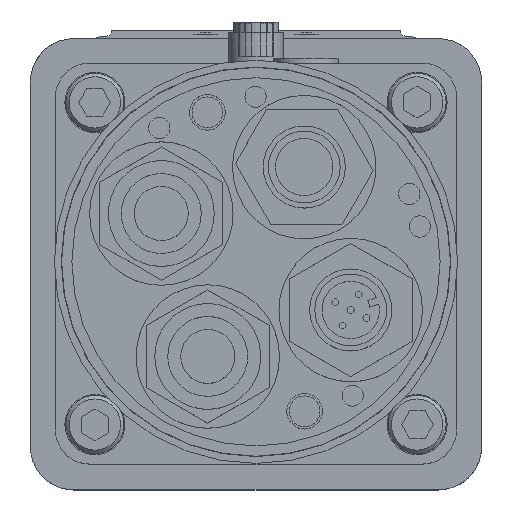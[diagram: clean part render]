
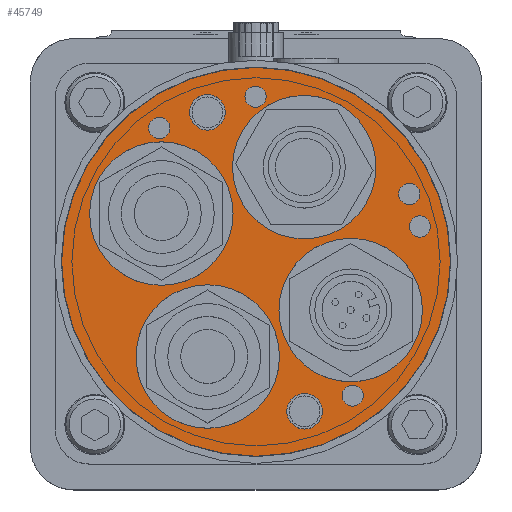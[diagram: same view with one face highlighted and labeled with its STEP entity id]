
A CAD part, top view. The second image highlights one B-rep face of the part: STEP entity #45749.
In plain terms, the highlighted planar face has unit normal (0, 0, 1) as drawn and (0, 0, -1) by its records, which use the part's own axes.
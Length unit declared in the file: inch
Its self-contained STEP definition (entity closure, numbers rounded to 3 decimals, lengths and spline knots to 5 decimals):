
#522 = PLANE ( 'NONE',  #7564 ) ;
#1649 = VERTEX_POINT ( 'NONE', #18389 ) ;
#2175 = CARTESIAN_POINT ( 'NONE',  ( 0.27802, -0.54565, -7.99261 ) ) ;
#2789 = CARTESIAN_POINT ( 'NONE',  ( -0.17746, -0.86119, -7.99261 ) ) ;
#3560 = AXIS2_PLACEMENT_3D ( 'NONE', #33934, #13906, #13620 ) ;
#3798 = EDGE_LOOP ( 'NONE', ( #43022 ) ) ;
#4311 = DIRECTION ( 'NONE',  ( 1., 0., 0. ) ) ;
#4491 = EDGE_CURVE ( 'NONE', #7160, #7160, #24255, .T. ) ;
#4759 = VERTEX_POINT ( 'NONE', #37407 ) ;
#5325 = DIRECTION ( 'NONE',  ( -1., 0., 0. ) ) ;
#5573 = DIRECTION ( 'NONE',  ( 0., 0., -1. ) ) ;
#5956 = AXIS2_PLACEMENT_3D ( 'NONE', #2175, #35667, #40591 ) ;
#6618 = ORIENTED_EDGE ( 'NONE', *, *, #51304, .F. ) ;
#6995 = CARTESIAN_POINT ( 'NONE',  ( -0.27982, -0.86119, -7.99261 ) ) ;
#7126 = FACE_BOUND ( 'NONE', #15696, .T. ) ;
#7160 = VERTEX_POINT ( 'NONE', #2789 ) ;
#7243 = AXIS2_PLACEMENT_3D ( 'NONE', #53114, #28141, #15519 ) ;
#7564 = AXIS2_PLACEMENT_3D ( 'NONE', #29908, #21391, #50222 ) ;
#8212 = DIRECTION ( 'NONE',  ( 0., 0., -1. ) ) ;
#8250 = DIRECTION ( 'NONE',  ( 0., 0., -1. ) ) ;
#8532 = DIRECTION ( 'NONE',  ( -1., 0., 0. ) ) ;
#9557 = CARTESIAN_POINT ( 'NONE',  ( 0.69141, -0.54565, -7.99261 ) ) ;
#9688 = CARTESIAN_POINT ( 'NONE',  ( 0.13536, 0.54565, -7.99261 ) ) ;
#10394 = ORIENTED_EDGE ( 'NONE', *, *, #32654, .F. ) ;
#10955 = FACE_BOUND ( 'NONE', #48382, .T. ) ;
#11206 = EDGE_LOOP ( 'NONE', ( #25005 ) ) ;
#11508 = FACE_BOUND ( 'NONE', #44926, .T. ) ;
#12595 = CIRCLE ( 'NONE', #19595, 0.06102 ) ;
#12827 = CIRCLE ( 'NONE', #31192, 0.06102 ) ;
#13620 = DIRECTION ( 'NONE',  ( 1., 0., 0. ) ) ;
#13788 = AXIS2_PLACEMENT_3D ( 'NONE', #6995, #31447, #31972 ) ;
#13906 = DIRECTION ( 'NONE',  ( 0., 0., -1. ) ) ;
#15519 = DIRECTION ( 'NONE',  ( 1., 0., 0. ) ) ;
#15631 = FACE_BOUND ( 'NONE', #42193, .T. ) ;
#15696 = EDGE_LOOP ( 'NONE', ( #53434 ) ) ;
#15862 = CIRCLE ( 'NONE', #3560, 0.41339 ) ;
#15905 = FACE_BOUND ( 'NONE', #40054, .T. ) ;
#16017 = CARTESIAN_POINT ( 'NONE',  ( 0.38218, 0.86119, -7.99261 ) ) ;
#16335 = VERTEX_POINT ( 'NONE', #33080 ) ;
#16415 = CARTESIAN_POINT ( 'NONE',  ( -0.61791, -0.77112, -7.99261 ) ) ;
#16583 = EDGE_CURVE ( 'NONE', #49557, #49557, #38331, .T. ) ;
#17115 = ORIENTED_EDGE ( 'NONE', *, *, #20558, .F. ) ;
#18035 = ORIENTED_EDGE ( 'NONE', *, *, #47054, .F. ) ;
#18102 = ORIENTED_EDGE ( 'NONE', *, *, #28217, .F. ) ;
#18389 = CARTESIAN_POINT ( 'NONE',  ( 0.49586, 0.77112, -7.99261 ) ) ;
#18859 = DIRECTION ( 'NONE',  ( 1., 0., 0. ) ) ;
#19093 = CIRCLE ( 'NONE', #5956, 0.41339 ) ;
#19595 = AXIS2_PLACEMENT_3D ( 'NONE', #51683, #5573, #43160 ) ;
#19733 = FACE_BOUND ( 'NONE', #46553, .T. ) ;
#20558 = EDGE_CURVE ( 'NONE', #46819, #46819, #49845, .T. ) ;
#20862 = AXIS2_PLACEMENT_3D ( 'NONE', #45867, #8250, #8532 ) ;
#21197 = EDGE_CURVE ( 'NONE', #16335, #16335, #23588, .T. ) ;
#21391 = DIRECTION ( 'NONE',  ( 0., 0., 1. ) ) ;
#21665 = FACE_OUTER_BOUND ( 'NONE', #3798, .T. ) ;
#22790 = ORIENTED_EDGE ( 'NONE', *, *, #47359, .F. ) ;
#23588 = CIRCLE ( 'NONE', #30623, 0.41339 ) ;
#23721 = VERTEX_POINT ( 'NONE', #16017 ) ;
#23872 = FACE_BOUND ( 'NONE', #34082, .T. ) ;
#24255 = CIRCLE ( 'NONE', #13788, 0.10236 ) ;
#24815 = DIRECTION ( 'NONE',  ( -1., 0., 0. ) ) ;
#25005 = ORIENTED_EDGE ( 'NONE', *, *, #16583, .F. ) ;
#25903 = EDGE_CURVE ( 'NONE', #40979, #40979, #12595, .T. ) ;
#26556 = CARTESIAN_POINT ( 'NONE',  ( -0.9443, 0.20333, -7.99261 ) ) ;
#27094 = DIRECTION ( 'NONE',  ( 0., 0., -1. ) ) ;
#27813 = AXIS2_PLACEMENT_3D ( 'NONE', #47125, #38057, #4311 ) ;
#28141 = DIRECTION ( 'NONE',  ( 0., 0., 1. ) ) ;
#28217 = EDGE_CURVE ( 'NONE', #4759, #4759, #12827, .T. ) ;
#28255 = FACE_BOUND ( 'NONE', #48295, .T. ) ;
#28434 = CARTESIAN_POINT ( 'NONE',  ( 0.54565, 0.27802, -7.99261 ) ) ;
#28518 = DIRECTION ( 'NONE',  ( 1., 0., 0. ) ) ;
#28954 = DIRECTION ( 'NONE',  ( 0., 0., -1. ) ) ;
#29908 = CARTESIAN_POINT ( 'NONE',  ( 0., 0., -7.99261 ) ) ;
#30022 = CARTESIAN_POINT ( 'NONE',  ( 0.00272, 0.95118, -7.99261 ) ) ;
#30623 = AXIS2_PLACEMENT_3D ( 'NONE', #28434, #32021, #18859 ) ;
#31192 = AXIS2_PLACEMENT_3D ( 'NONE', #26556, #27094, #38902 ) ;
#31447 = DIRECTION ( 'NONE',  ( 0., 0., -1. ) ) ;
#31486 = EDGE_LOOP ( 'NONE', ( #17115 ) ) ;
#31972 = DIRECTION ( 'NONE',  ( 1., 0., 0. ) ) ;
#32021 = DIRECTION ( 'NONE',  ( 0., 0., -1. ) ) ;
#32654 = EDGE_CURVE ( 'NONE', #47298, #47298, #15862, .T. ) ;
#33080 = CARTESIAN_POINT ( 'NONE',  ( 0.95904, 0.27802, -7.99261 ) ) ;
#33316 = VERTEX_POINT ( 'NONE', #42373 ) ;
#33369 = CARTESIAN_POINT ( 'NONE',  ( -0.0583, 0.95118, -7.99261 ) ) ;
#33934 = CARTESIAN_POINT ( 'NONE',  ( -0.27802, 0.54565, -7.99261 ) ) ;
#34082 = EDGE_LOOP ( 'NONE', ( #38686 ) ) ;
#35667 = DIRECTION ( 'NONE',  ( 0., 0., -1. ) ) ;
#36376 = AXIS2_PLACEMENT_3D ( 'NONE', #54202, #28954, #24815 ) ;
#36486 = FACE_BOUND ( 'NONE', #31486, .T. ) ;
#37270 = VERTEX_POINT ( 'NONE', #16415 ) ;
#37407 = CARTESIAN_POINT ( 'NONE',  ( -1.00533, 0.20333, -7.99261 ) ) ;
#38057 = DIRECTION ( 'NONE',  ( 0., 0., -1. ) ) ;
#38331 = CIRCLE ( 'NONE', #27813, 0.41339 ) ;
#38686 = ORIENTED_EDGE ( 'NONE', *, *, #21197, .F. ) ;
#38756 = EDGE_CURVE ( 'NONE', #1649, #1649, #46027, .T. ) ;
#38790 = DIRECTION ( 'NONE',  ( 0., 0., -1. ) ) ;
#38902 = DIRECTION ( 'NONE',  ( -1., 0., 0. ) ) ;
#38913 = VERTEX_POINT ( 'NONE', #9557 ) ;
#40054 = EDGE_LOOP ( 'NONE', ( #6618 ) ) ;
#40591 = DIRECTION ( 'NONE',  ( 1., 0., 0. ) ) ;
#40979 = VERTEX_POINT ( 'NONE', #53067 ) ;
#41047 = CARTESIAN_POINT ( 'NONE',  ( -0.13227, -0.27802, -7.99261 ) ) ;
#41430 = FACE_BOUND ( 'NONE', #11206, .T. ) ;
#42193 = EDGE_LOOP ( 'NONE', ( #18035 ) ) ;
#42373 = CARTESIAN_POINT ( 'NONE',  ( 1.12008, 0., -7.99261 ) ) ;
#43022 = ORIENTED_EDGE ( 'NONE', *, *, #53357, .F. ) ;
#43160 = DIRECTION ( 'NONE',  ( -1., 0., 0. ) ) ;
#43369 = ORIENTED_EDGE ( 'NONE', *, *, #25903, .F. ) ;
#43692 = AXIS2_PLACEMENT_3D ( 'NONE', #30022, #38790, #5325 ) ;
#44926 = EDGE_LOOP ( 'NONE', ( #22790 ) ) ;
#45007 = CARTESIAN_POINT ( 'NONE',  ( 0.27982, 0.86119, -7.99261 ) ) ;
#45749 = ADVANCED_FACE ( 'NONE', ( #7126, #41430, #23872, #10955, #19733, #15631, #36486, #53226, #11508, #28255, #15905, #21665 ), #522, .F. ) ;
#45867 = CARTESIAN_POINT ( 'NONE',  ( -0.55688, -0.77112, -7.99261 ) ) ;
#46027 = CIRCLE ( 'NONE', #36376, 0.06102 ) ;
#46553 = EDGE_LOOP ( 'NONE', ( #18102 ) ) ;
#46819 = VERTEX_POINT ( 'NONE', #33369 ) ;
#47054 = EDGE_CURVE ( 'NONE', #37270, #37270, #51568, .T. ) ;
#47125 = CARTESIAN_POINT ( 'NONE',  ( -0.54565, -0.27802, -7.99261 ) ) ;
#47298 = VERTEX_POINT ( 'NONE', #9688 ) ;
#47359 = EDGE_CURVE ( 'NONE', #38913, #38913, #19093, .T. ) ;
#47418 = AXIS2_PLACEMENT_3D ( 'NONE', #45007, #8212, #28518 ) ;
#48295 = EDGE_LOOP ( 'NONE', ( #10394 ) ) ;
#48382 = EDGE_LOOP ( 'NONE', ( #43369 ) ) ;
#49557 = VERTEX_POINT ( 'NONE', #41047 ) ;
#49845 = CIRCLE ( 'NONE', #43692, 0.06102 ) ;
#50222 = DIRECTION ( 'NONE',  ( 1., 0., 0. ) ) ;
#50902 = CIRCLE ( 'NONE', #47418, 0.10236 ) ;
#51024 = EDGE_LOOP ( 'NONE', ( #52779 ) ) ;
#51095 = CIRCLE ( 'NONE', #7243, 1.12008 ) ;
#51304 = EDGE_CURVE ( 'NONE', #23721, #23721, #50902, .T. ) ;
#51568 = CIRCLE ( 'NONE', #20862, 0.06102 ) ;
#51683 = CARTESIAN_POINT ( 'NONE',  ( -0.88347, 0.39055, -7.99261 ) ) ;
#52779 = ORIENTED_EDGE ( 'NONE', *, *, #38756, .F. ) ;
#53067 = CARTESIAN_POINT ( 'NONE',  ( -0.9445, 0.39055, -7.99261 ) ) ;
#53114 = CARTESIAN_POINT ( 'NONE',  ( 0., 0., -7.99261 ) ) ;
#53226 = FACE_BOUND ( 'NONE', #51024, .T. ) ;
#53357 = EDGE_CURVE ( 'NONE', #33316, #33316, #51095, .T. ) ;
#53434 = ORIENTED_EDGE ( 'NONE', *, *, #4491, .F. ) ;
#54202 = CARTESIAN_POINT ( 'NONE',  ( 0.55688, 0.77112, -7.99261 ) ) ;
